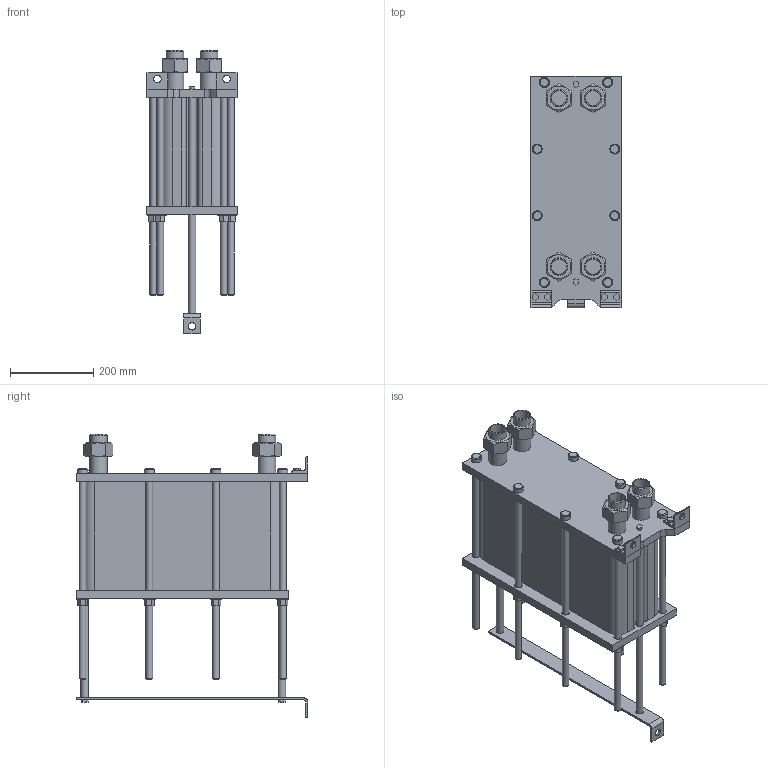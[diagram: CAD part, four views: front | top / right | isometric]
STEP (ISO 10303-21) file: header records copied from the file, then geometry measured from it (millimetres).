
FILE_DESCRIPTION(/* description */ (''),/* implementation_level */ '2;1');
FILE_NAME(/* name */ 'C:\Users\zhuro\Desktop\ENCO\TO\ЭН-004\ЭН-0,5-004-84-1.stp',/* time_stamp */ '2022-06-06T10:50:38+03:00',/* author */ ('zhuro'),/* organization */ (''),/* preprocessor_version */ 'ST-DEVELOPER v18.1',/* originating_system */ 'Autodesk Inventor 2022',/* authorisation */ '');
FILE_SCHEMA (('AUTOMOTIVE_DESIGN { 1 0 10303 214 3 1 1 }'));
Length unit declared in the file: millimetre
Products named in the file (1): ЭН-0,5-004-84-1
Bounding box: 216 x 555 x 680.2 mm (x, y, z)
Volume: 25227366.1 mm3; surface area: 1522600 mm2
Topology: 40 solids, 40 shells, 403 faces, 865 edges, 574 vertices
Faces by surface type: plane 272, cylinder 103, cone 28
Full cylindrical faces by diameter (mm): 10 x4, 16 x16, 18 x29, 20 x2, 24 x8, 28 x8, 36.3 x5, 42.3 x9
Entity records: 11137 total; most frequent: CARTESIAN_POINT 1939, DIRECTION 1879, ORIENTED_EDGE 1730, EDGE_CURVE 865, AXIS2_PLACEMENT_3D 658, VERTEX_POINT 574, LINE 563, VECTOR 563
